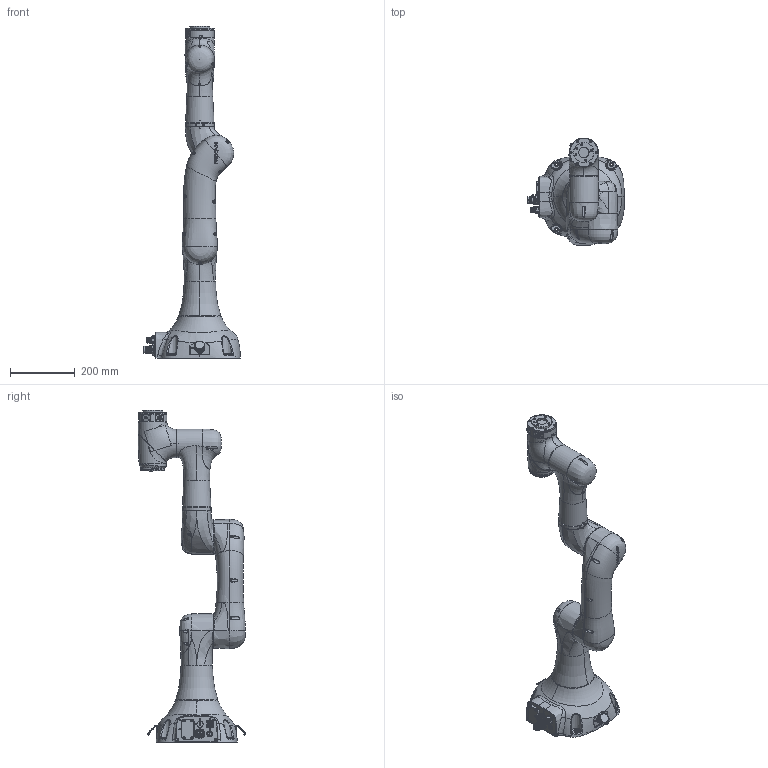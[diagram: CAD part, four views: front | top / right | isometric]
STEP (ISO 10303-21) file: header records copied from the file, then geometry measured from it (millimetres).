
FILE_DESCRIPTION(/* description */ (''),/* implementation_level */ '2;1');
FILE_NAME(/* name */ 'SR3-R580 简化模型(20220819).stp',/* time_stamp */ '2022-08-25T18:44:34+08:00',/* author */ (''),/* organization */ (''),/* preprocessor_version */ 'ST-DEVELOPER v16',/* originating_system */ 'SIEMENS PLM Software NX 10.0',/* authorisation */ '');
FILE_SCHEMA (('CONFIG_CONTROL_DESIGN'));
Products named in the file (8): SR3-shuchu-B; SR3-shouwan-B; SR3-xiaobihou-B; SR3-xiaobiqian-B; SR3-dabi-B; SR3-yao-B; SR3-base-B; SR3-R580 简化模型(20220819)
Assembly tree (7 placements, depth 2):
  SR3-R580 简化模型(20220819)
    SR3-base-B
    SR3-yao-B
    SR3-dabi-B
    SR3-xiaobiqian-B
    SR3-xiaobihou-B
    SR3-shouwan-B
    SR3-shuchu-B
Bounding box: 299.2 x 332.25 x 1027.5 mm (x, y, z)
Volume: 11519834 mm3; surface area: 742299.4 mm2
Topology: 6 solids, 35 shells, 5516 faces, 14580 edges, 9342 vertices
Faces by surface type: plane 2852, cylinder 1042, bspline 797, cone 325, extrusion 225, torus 170, sphere 81, revolution 24
Full cylindrical faces by diameter (mm): 0.448 x5, 0.598 x5, 0.627 x1, 0.8 x8, 2.38 x8, 2.5 x5, 2.874 x4, 3 x4, 3.3 x2, 3.4 x4, 4 x1, 4.5 x8, 4.7 x16, 5 x4, 5.5 x20, 5.6 x8, 6 x2, 6.5 x10, 6.6 x4, 6.7 x2, 8 x1, 8.072 x1, 8.617 x1, 9.4 x5, 11 x4, 20.05 x2, 27.9 x2, 31.5 x1, 60 x6, 63 x1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
Entity records: 288492 total; most frequent: CARTESIAN_POINT 160599, ORIENTED_EDGE 28056, DIRECTION 22914, EDGE_CURVE 14028, VERTEX_POINT 9200, VECTOR 7752, AXIS2_PLACEMENT_3D 7569, LINE 7527
